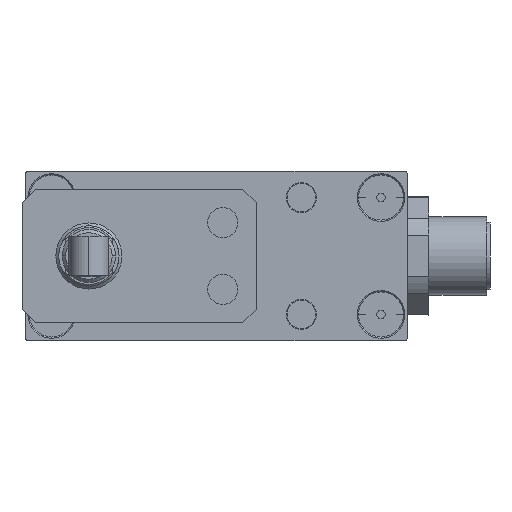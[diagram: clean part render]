
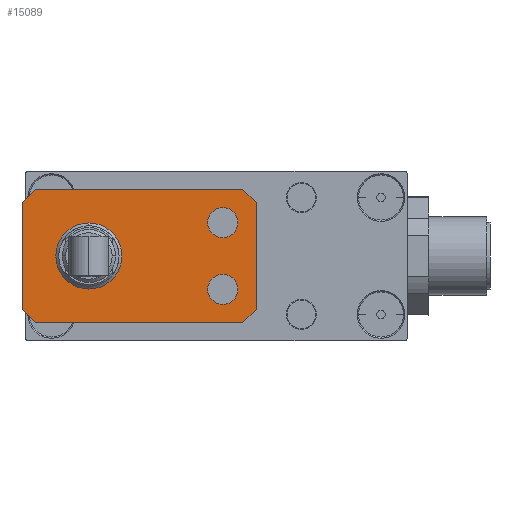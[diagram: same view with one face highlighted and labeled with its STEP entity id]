
A CAD part, front view. The second image highlights one B-rep face of the part: STEP entity #15089.
In plain terms, the highlighted planar face has unit normal (0, -1, 0) as drawn and (-1, 0, 0) by its records, which use the part's own axes.
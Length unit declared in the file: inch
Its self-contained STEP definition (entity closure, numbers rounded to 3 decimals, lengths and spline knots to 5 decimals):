
#274 = VECTOR ( 'NONE', #9224, 39.37008 ) ;
#423 = VERTEX_POINT ( 'NONE', #39020 ) ;
#711 = EDGE_CURVE ( 'NONE', #423, #24372, #49145, .T. ) ;
#1807 = ORIENTED_EDGE ( 'NONE', *, *, #1977, .T. ) ;
#1977 = EDGE_CURVE ( 'NONE', #6592, #4304, #2836, .T. ) ;
#2333 = LINE ( 'NONE', #57683, #55626 ) ;
#2836 = CIRCLE ( 'NONE', #53911, 0.08858 ) ;
#3508 = EDGE_LOOP ( 'NONE', ( #30496, #14394 ) ) ;
#3518 = LINE ( 'NONE', #25288, #26328 ) ;
#4229 = VERTEX_POINT ( 'NONE', #31578 ) ;
#4304 = VERTEX_POINT ( 'NONE', #34238 ) ;
#5029 = AXIS2_PLACEMENT_3D ( 'NONE', #22688, #21809, #8492 ) ;
#5373 = CIRCLE ( 'NONE', #45025, 0.19449 ) ;
#5463 = EDGE_CURVE ( 'NONE', #33554, #44551, #32806, .T. ) ;
#5761 = CARTESIAN_POINT ( 'NONE',  ( 4.1122, 0.3937, -0.31496 ) ) ;
#5796 = CARTESIAN_POINT ( 'NONE',  ( 4.1122, -0.31496, 0.98425 ) ) ;
#6527 = CARTESIAN_POINT ( 'NONE',  ( 4.1122, 0.3937, 0.90551 ) ) ;
#6592 = VERTEX_POINT ( 'NONE', #17350 ) ;
#6954 = EDGE_CURVE ( 'NONE', #27799, #55862, #2333, .T. ) ;
#6975 = EDGE_CURVE ( 'NONE', #4229, #41736, #5373, .T. ) ;
#7455 = DIRECTION ( 'NONE',  ( 0., -0.707, -0.707 ) ) ;
#8076 = EDGE_CURVE ( 'NONE', #44551, #41273, #38713, .T. ) ;
#8186 = EDGE_LOOP ( 'NONE', ( #54904, #49856, #33824, #16922, #23941, #15973, #9113, #18215 ) ) ;
#8492 = DIRECTION ( 'NONE',  ( 0., 1., 0. ) ) ;
#8730 = AXIS2_PLACEMENT_3D ( 'NONE', #54588, #54875, #13162 ) ;
#9113 = ORIENTED_EDGE ( 'NONE', *, *, #26361, .F. ) ;
#9224 = DIRECTION ( 'NONE',  ( 0., 0.707, 0.707 ) ) ;
#9302 = DIRECTION ( 'NONE',  ( 0., 0., -1. ) ) ;
#11693 = VERTEX_POINT ( 'NONE', #44995 ) ;
#12323 = CARTESIAN_POINT ( 'NONE',  ( 4.1122, 0.31496, -0.3937 ) ) ;
#12721 = EDGE_CURVE ( 'NONE', #41273, #22441, #34068, .T. ) ;
#13162 = DIRECTION ( 'NONE',  ( 0., 1., 0. ) ) ;
#13202 = CARTESIAN_POINT ( 'NONE',  ( 4.1122, 0.3937, 0.90551 ) ) ;
#13427 = AXIS2_PLACEMENT_3D ( 'NONE', #58245, #54601, #17098 ) ;
#14394 = ORIENTED_EDGE ( 'NONE', *, *, #58998, .F. ) ;
#14593 = DIRECTION ( 'NONE',  ( 0., 0., 1. ) ) ;
#15089 = ADVANCED_FACE ( 'NONE', ( #41520, #18521, #23348, #41812 ), #51187, .T. ) ;
#15973 = ORIENTED_EDGE ( 'NONE', *, *, #5463, .F. ) ;
#16922 = ORIENTED_EDGE ( 'NONE', *, *, #12721, .F. ) ;
#17098 = DIRECTION ( 'NONE',  ( 0., 1., 0. ) ) ;
#17350 = CARTESIAN_POINT ( 'NONE',  ( 4.1122, -0.28543, 0.7874 ) ) ;
#17792 = LINE ( 'NONE', #32016, #36026 ) ;
#18025 = VECTOR ( 'NONE', #27450, 39.37008 ) ;
#18215 = ORIENTED_EDGE ( 'NONE', *, *, #46198, .F. ) ;
#18521 = FACE_BOUND ( 'NONE', #32198, .T. ) ;
#18652 = CARTESIAN_POINT ( 'NONE',  ( 4.1122, -0.19685, 0.7874 ) ) ;
#18748 = EDGE_CURVE ( 'NONE', #24372, #423, #43456, .T. ) ;
#20863 = DIRECTION ( 'NONE',  ( 0., 0., 1. ) ) ;
#21809 = DIRECTION ( 'NONE',  ( 1., 0., 0. ) ) ;
#22441 = VERTEX_POINT ( 'NONE', #50293 ) ;
#22688 = CARTESIAN_POINT ( 'NONE',  ( 4.1122, -0.19685, 0.7874 ) ) ;
#23348 = FACE_OUTER_BOUND ( 'NONE', #8186, .T. ) ;
#23383 = ORIENTED_EDGE ( 'NONE', *, *, #18748, .T. ) ;
#23941 = ORIENTED_EDGE ( 'NONE', *, *, #8076, .F. ) ;
#24372 = VERTEX_POINT ( 'NONE', #48541 ) ;
#25288 = CARTESIAN_POINT ( 'NONE',  ( 4.1122, -0.31496, -0.3937 ) ) ;
#25307 = CARTESIAN_POINT ( 'NONE',  ( 4.1122, 0., 0. ) ) ;
#25884 = DIRECTION ( 'NONE',  ( 0., 1., 0. ) ) ;
#26140 = EDGE_CURVE ( 'NONE', #55862, #37675, #17792, .T. ) ;
#26328 = VECTOR ( 'NONE', #25884, 39.37008 ) ;
#26361 = EDGE_CURVE ( 'NONE', #11693, #33554, #3518, .T. ) ;
#27450 = DIRECTION ( 'NONE',  ( 0., -1., 0. ) ) ;
#27799 = VERTEX_POINT ( 'NONE', #5796 ) ;
#29546 = CIRCLE ( 'NONE', #48888, 0.19449 ) ;
#30496 = ORIENTED_EDGE ( 'NONE', *, *, #6975, .F. ) ;
#31308 = EDGE_CURVE ( 'NONE', #22441, #27799, #31997, .T. ) ;
#31323 = DIRECTION ( 'NONE',  ( -1., 0., 0. ) ) ;
#31578 = CARTESIAN_POINT ( 'NONE',  ( 4.1122, -0.19449, 0. ) ) ;
#31597 = AXIS2_PLACEMENT_3D ( 'NONE', #46633, #56015, #14593 ) ;
#31997 = LINE ( 'NONE', #49535, #18025 ) ;
#32016 = CARTESIAN_POINT ( 'NONE',  ( 4.1122, -0.3937, -0.31496 ) ) ;
#32198 = EDGE_LOOP ( 'NONE', ( #55184, #23383 ) ) ;
#32806 = LINE ( 'NONE', #50661, #274 ) ;
#33554 = VERTEX_POINT ( 'NONE', #12323 ) ;
#33824 = ORIENTED_EDGE ( 'NONE', *, *, #31308, .F. ) ;
#33979 = EDGE_LOOP ( 'NONE', ( #1807, #43037 ) ) ;
#34068 = LINE ( 'NONE', #6527, #54120 ) ;
#34238 = CARTESIAN_POINT ( 'NONE',  ( 4.1122, -0.10827, 0.7874 ) ) ;
#34649 = VECTOR ( 'NONE', #20863, 39.37008 ) ;
#35974 = CARTESIAN_POINT ( 'NONE',  ( 4.1122, 0.19449, 0. ) ) ;
#36026 = VECTOR ( 'NONE', #9302, 39.37008 ) ;
#37120 = DIRECTION ( 'NONE',  ( 0., 1., 0. ) ) ;
#37675 = VERTEX_POINT ( 'NONE', #48641 ) ;
#38380 = DIRECTION ( 'NONE',  ( 0., 0.707, -0.707 ) ) ;
#38713 = LINE ( 'NONE', #43841, #34649 ) ;
#39020 = CARTESIAN_POINT ( 'NONE',  ( 4.1122, 0.10827, 0.7874 ) ) ;
#40541 = EDGE_CURVE ( 'NONE', #4304, #6592, #52342, .T. ) ;
#40662 = CARTESIAN_POINT ( 'NONE',  ( 4.1122, 0., 0. ) ) ;
#41273 = VERTEX_POINT ( 'NONE', #13202 ) ;
#41520 = FACE_BOUND ( 'NONE', #3508, .T. ) ;
#41736 = VERTEX_POINT ( 'NONE', #35974 ) ;
#41812 = FACE_BOUND ( 'NONE', #33979, .T. ) ;
#43037 = ORIENTED_EDGE ( 'NONE', *, *, #40541, .T. ) ;
#43417 = DIRECTION ( 'NONE',  ( 0., -0.707, 0.707 ) ) ;
#43456 = CIRCLE ( 'NONE', #8730, 0.08858 ) ;
#43505 = CARTESIAN_POINT ( 'NONE',  ( 4.1122, -0.31496, -0.3937 ) ) ;
#43841 = CARTESIAN_POINT ( 'NONE',  ( 4.1122, 0.3937, -0.31496 ) ) ;
#44551 = VERTEX_POINT ( 'NONE', #5761 ) ;
#44690 = CARTESIAN_POINT ( 'NONE',  ( 4.1122, -0.3937, 0.90551 ) ) ;
#44995 = CARTESIAN_POINT ( 'NONE',  ( 4.1122, -0.31496, -0.3937 ) ) ;
#45025 = AXIS2_PLACEMENT_3D ( 'NONE', #25307, #49184, #52842 ) ;
#46198 = EDGE_CURVE ( 'NONE', #37675, #11693, #52592, .T. ) ;
#46633 = CARTESIAN_POINT ( 'NONE',  ( 4.1122, 0., 0. ) ) ;
#47868 = DIRECTION ( 'NONE',  ( 1., 0., 0. ) ) ;
#48541 = CARTESIAN_POINT ( 'NONE',  ( 4.1122, 0.28543, 0.7874 ) ) ;
#48641 = CARTESIAN_POINT ( 'NONE',  ( 4.1122, -0.3937, -0.31496 ) ) ;
#48888 = AXIS2_PLACEMENT_3D ( 'NONE', #40662, #31323, #53682 ) ;
#49145 = CIRCLE ( 'NONE', #13427, 0.08858 ) ;
#49184 = DIRECTION ( 'NONE',  ( -1., 0., 0. ) ) ;
#49535 = CARTESIAN_POINT ( 'NONE',  ( 4.1122, -0.31496, 0.98425 ) ) ;
#49856 = ORIENTED_EDGE ( 'NONE', *, *, #6954, .F. ) ;
#50293 = CARTESIAN_POINT ( 'NONE',  ( 4.1122, 0.31496, 0.98425 ) ) ;
#50661 = CARTESIAN_POINT ( 'NONE',  ( 4.1122, 0.31496, -0.3937 ) ) ;
#51187 = PLANE ( 'NONE',  #31597 ) ;
#52342 = CIRCLE ( 'NONE', #5029, 0.08858 ) ;
#52592 = LINE ( 'NONE', #43505, #57672 ) ;
#52842 = DIRECTION ( 'NONE',  ( 0., 0., 1. ) ) ;
#53682 = DIRECTION ( 'NONE',  ( 0., 0., 1. ) ) ;
#53911 = AXIS2_PLACEMENT_3D ( 'NONE', #18652, #47868, #37120 ) ;
#54120 = VECTOR ( 'NONE', #43417, 39.37008 ) ;
#54588 = CARTESIAN_POINT ( 'NONE',  ( 4.1122, 0.19685, 0.7874 ) ) ;
#54601 = DIRECTION ( 'NONE',  ( 1., 0., 0. ) ) ;
#54875 = DIRECTION ( 'NONE',  ( 1., 0., 0. ) ) ;
#54904 = ORIENTED_EDGE ( 'NONE', *, *, #26140, .F. ) ;
#55184 = ORIENTED_EDGE ( 'NONE', *, *, #711, .T. ) ;
#55626 = VECTOR ( 'NONE', #7455, 39.37008 ) ;
#55862 = VERTEX_POINT ( 'NONE', #44690 ) ;
#56015 = DIRECTION ( 'NONE',  ( -1., 0., 0. ) ) ;
#57672 = VECTOR ( 'NONE', #38380, 39.37008 ) ;
#57683 = CARTESIAN_POINT ( 'NONE',  ( 4.1122, -0.3937, 0.90551 ) ) ;
#58245 = CARTESIAN_POINT ( 'NONE',  ( 4.1122, 0.19685, 0.7874 ) ) ;
#58998 = EDGE_CURVE ( 'NONE', #41736, #4229, #29546, .T. ) ;
